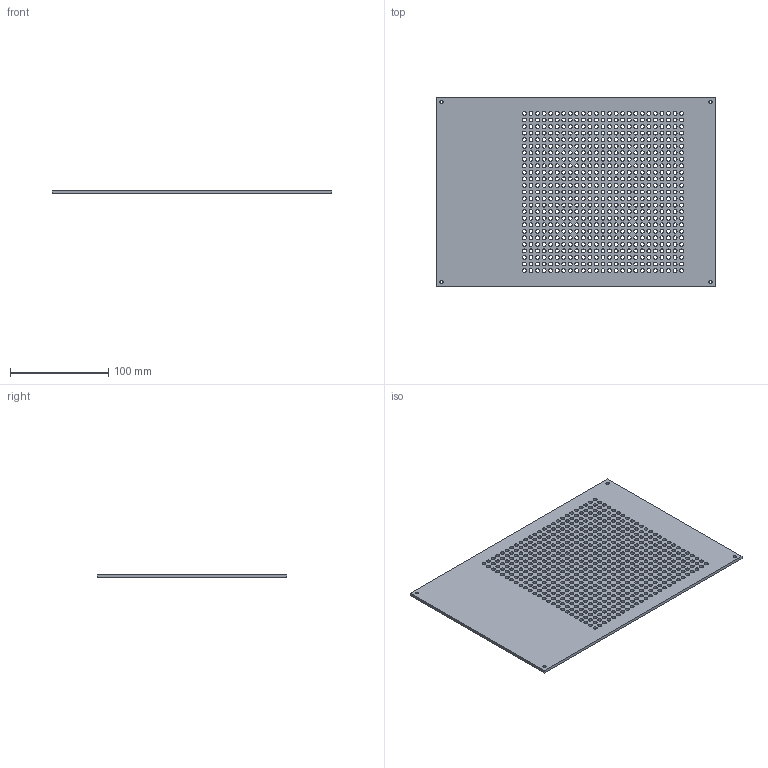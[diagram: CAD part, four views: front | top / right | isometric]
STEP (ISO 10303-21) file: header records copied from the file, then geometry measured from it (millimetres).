
FILE_DESCRIPTION(('FreeCAD Model'),'2;1');
FILE_NAME('Open CASCADE Shape Model','2025-01-25T13:20:59',(''),(''), 'Open CASCADE STEP processor 7.6','FreeCAD','Unknown');
FILE_SCHEMA(('AUTOMOTIVE_DESIGN { 1 0 10303 214 1 1 1 1 }'));
Length unit declared in the file: millimetre
Products named in the file (1): Top
Bounding box: 285 x 193 x 3 mm (x, y, z)
Volume: 141350.4 mm3; surface area: 120788 mm2
Topology: 1 solids, 1 shells, 635 faces, 1899 edges, 1266 vertices
Faces by surface type: cylinder 629, plane 6
Full cylindrical faces by diameter (mm): 3.3 x4, 4 x625
Entity records: 24709 total; most frequent: DIRECTION 4429, CARTESIAN_POINT 3801, ORIENTED_EDGE 3798, EDGE_CURVE 1899, AXIS2_PLACEMENT_3D 1894, FACE_BOUND 1893, EDGE_LOOP 1893, VERTEX_POINT 1266
